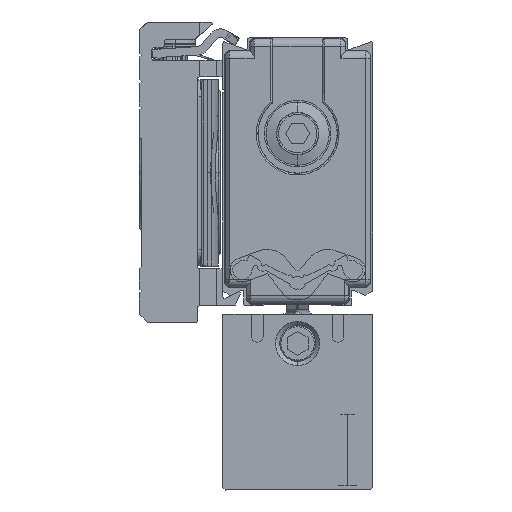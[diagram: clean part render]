
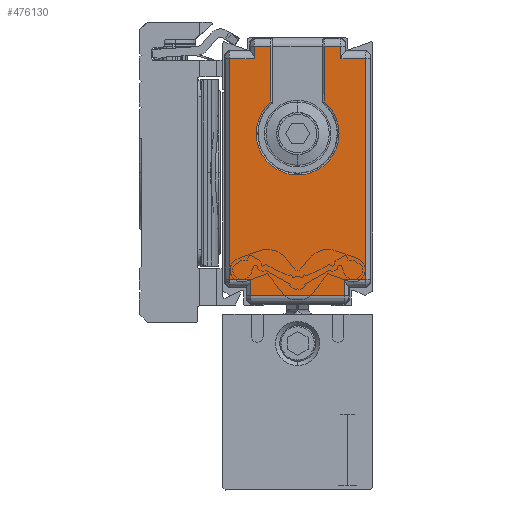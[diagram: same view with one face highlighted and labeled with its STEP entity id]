
A CAD part, left-side view. The second image highlights one B-rep face of the part: STEP entity #476130.
In plain terms, the highlighted planar face has unit normal (-1, 0, 0) as drawn and (0, 0, -1) by its records, which use the part's own axes.
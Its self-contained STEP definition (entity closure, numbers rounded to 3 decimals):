
#435290=CARTESIAN_POINT('',(24.688,30.224,-494.5));
#435300=VERTEX_POINT('',#435290);
#436350=CARTESIAN_POINT('',(31.365,35.75,-494.5));
#436360=DIRECTION('',(0.,-1.,0.));
#436370=VECTOR('',#436360,1.);
#436380=LINE('',#436350,#436370);
#436390=CARTESIAN_POINT('',(31.365,23.776,-494.5));
#436400=VERTEX_POINT('',#436390);
#436410=CARTESIAN_POINT('',(31.365,21.802,-494.5));
#436420=VERTEX_POINT('',#436410);
#436430=EDGE_CURVE('',#436400,#436420,#436380,.T.);
#443250=CARTESIAN_POINT('',(3.435,32.648,-494.5));
#443260=VERTEX_POINT('',#443250);
#443460=CARTESIAN_POINT('',(1.435,32.648,-494.5));
#443470=VERTEX_POINT('',#443460);
#443500=CARTESIAN_POINT('',(3.935,32.648,-494.5));
#443510=CARTESIAN_POINT('',(3.435,32.648,-494.5));
#443520=CARTESIAN_POINT('',(2.935,32.648,-494.5));
#443530=CARTESIAN_POINT('',(2.102,32.648,-494.5));
#443540=CARTESIAN_POINT('',(1.768,32.648,-494.5));
#443550=CARTESIAN_POINT('',(1.435,32.648,-494.5));
#443560=B_SPLINE_CURVE_WITH_KNOTS('',3,(#443500,#443510,#443520,#443530,
#443540,#443550),.UNSPECIFIED.,.F.,.F.,(4,2,4),(37.084,
38.584,39.584),.UNSPECIFIED.);
#443570=EDGE_CURVE('',#443260,#443470,#443560,.T.);
#444910=CARTESIAN_POINT('',(24.688,23.776,-494.5));
#444920=VERTEX_POINT('',#444910);
#446710=CARTESIAN_POINT('',(29.865,35.75,-494.5));
#446720=DIRECTION('',(0.,1.,0.));
#446730=VECTOR('',#446720,1.);
#446740=LINE('',#446710,#446730);
#446750=CARTESIAN_POINT('',(29.865,32.198,-494.5));
#446760=VERTEX_POINT('',#446750);
#446770=CARTESIAN_POINT('',(29.865,35.198,-494.5));
#446780=VERTEX_POINT('',#446770);
#446790=EDGE_CURVE('',#446760,#446780,#446740,.T.);
#448640=CARTESIAN_POINT('',(3.435,35.75,-494.5));
#448650=DIRECTION('',(0.,1.,0.));
#448660=VECTOR('',#448650,1.);
#448670=LINE('',#448640,#448660);
#448680=CARTESIAN_POINT('',(3.435,35.198,-494.5));
#448690=VERTEX_POINT('',#448680);
#448700=EDGE_CURVE('',#443260,#448690,#448670,.T.);
#449130=CARTESIAN_POINT('',(31.365,32.198,-494.5));
#449140=VERTEX_POINT('',#449130);
#449170=CARTESIAN_POINT('',(31.365,30.224,-494.5));
#449180=VERTEX_POINT('',#449170);
#449190=EDGE_CURVE('',#449140,#449180,#436380,.T.);
#449900=CARTESIAN_POINT('',(3.435,18.802,-494.5));
#449910=VERTEX_POINT('',#449900);
#450220=CARTESIAN_POINT('',(3.435,35.75,-494.5));
#450230=DIRECTION('',(0.,-1.,0.));
#450240=VECTOR('',#450230,1.);
#450250=LINE('',#450220,#450240);
#450260=CARTESIAN_POINT('',(3.435,21.352,-494.5));
#450270=VERTEX_POINT('',#450260);
#450280=EDGE_CURVE('',#450270,#449910,#450250,.T.);
#451130=CARTESIAN_POINT('',(1.435,21.352,-494.5));
#451140=VERTEX_POINT('',#451130);
#452610=CARTESIAN_POINT('',(3.935,21.352,-494.5));
#452620=CARTESIAN_POINT('',(3.435,21.352,-494.5));
#452630=CARTESIAN_POINT('',(2.935,21.352,-494.5));
#452640=CARTESIAN_POINT('',(2.102,21.352,-494.5));
#452650=CARTESIAN_POINT('',(1.768,21.352,-494.5));
#452660=CARTESIAN_POINT('',(1.435,21.352,-494.5));
#452670=B_SPLINE_CURVE_WITH_KNOTS('',3,(#452610,#452620,#452630,#452640,
#452650,#452660),.UNSPECIFIED.,.F.,.F.,(4,2,4),(37.084,
38.584,39.584),.UNSPECIFIED.);
#452680=EDGE_CURVE('',#450270,#451140,#452670,.T.);
#453860=CARTESIAN_POINT('',(1.435,35.75,-494.5));
#453870=DIRECTION('',(0.,1.,0.));
#453880=VECTOR('',#453870,1.);
#453890=LINE('',#453860,#453880);
#453900=EDGE_CURVE('',#451140,#443470,#453890,.T.);
#457460=CARTESIAN_POINT('',(0.15,30.224,-494.5));
#457470=DIRECTION('',(1.,0.,0.));
#457480=VECTOR('',#457470,1.);
#457490=LINE('',#457460,#457480);
#457500=EDGE_CURVE('',#435300,#449180,#457490,.T.);
#461240=CARTESIAN_POINT('',(29.865,21.802,-494.5));
#461250=VERTEX_POINT('',#461240);
#461300=CARTESIAN_POINT('',(29.365,21.802,-494.5));
#461310=CARTESIAN_POINT('',(29.782,21.802,-494.5));
#461320=CARTESIAN_POINT('',(30.198,21.802,-494.5));
#461330=CARTESIAN_POINT('',(30.865,21.802,-494.5));
#461340=CARTESIAN_POINT('',(31.115,21.802,-494.5));
#461350=CARTESIAN_POINT('',(31.365,21.802,-494.5));
#461360=B_SPLINE_CURVE_WITH_KNOTS('',3,(#461300,#461310,#461320,#461330,
#461340,#461350),.UNSPECIFIED.,.F.,.F.,(4,2,4),(37.587,
38.837,39.587),.UNSPECIFIED.);
#461370=EDGE_CURVE('',#461250,#436420,#461360,.T.);
#461700=CARTESIAN_POINT('',(29.365,32.198,-494.5));
#461710=CARTESIAN_POINT('',(29.782,32.198,-494.5));
#461720=CARTESIAN_POINT('',(30.198,32.198,-494.5));
#461730=CARTESIAN_POINT('',(30.865,32.198,-494.5));
#461740=CARTESIAN_POINT('',(31.115,32.198,-494.5));
#461750=CARTESIAN_POINT('',(31.365,32.198,-494.5));
#461760=B_SPLINE_CURVE_WITH_KNOTS('',3,(#461700,#461710,#461720,#461730,
#461740,#461750),.UNSPECIFIED.,.F.,.F.,(4,2,4),(37.587,
38.837,39.587),.UNSPECIFIED.);
#461770=EDGE_CURVE('',#446760,#449140,#461760,.T.);
#462910=CARTESIAN_POINT('',(29.865,18.802,-494.5));
#462920=VERTEX_POINT('',#462910);
#462950=CARTESIAN_POINT('',(3.435,18.802,-494.5));
#462960=CARTESIAN_POINT('',(7.84,18.802,-494.5));
#462970=CARTESIAN_POINT('',(12.245,18.802,-494.5));
#462980=CARTESIAN_POINT('',(21.055,18.802,-494.5));
#462990=CARTESIAN_POINT('',(25.46,18.802,-494.5));
#463000=CARTESIAN_POINT('',(29.865,18.802,-494.5));
#463010=B_SPLINE_CURVE_WITH_KNOTS('',3,(#462950,#462960,#462970,#462980,
#462990,#463000),.UNSPECIFIED.,.F.,.F.,(4,2,4),(24.334,
37.549,50.764),.UNSPECIFIED.);
#463020=EDGE_CURVE('',#449910,#462920,#463010,.T.);
#469350=CARTESIAN_POINT('',(29.865,35.75,-494.5));
#469360=DIRECTION('',(0.,-1.,0.));
#469370=VECTOR('',#469360,1.);
#469380=LINE('',#469350,#469370);
#469390=EDGE_CURVE('',#461250,#462920,#469380,.T.);
#470580=CARTESIAN_POINT('',(3.435,35.198,-494.5));
#470590=CARTESIAN_POINT('',(7.84,35.198,-494.5));
#470600=CARTESIAN_POINT('',(12.245,35.198,-494.5));
#470610=CARTESIAN_POINT('',(21.055,35.198,-494.5));
#470620=CARTESIAN_POINT('',(25.46,35.198,-494.5));
#470630=CARTESIAN_POINT('',(29.865,35.198,-494.5));
#470640=B_SPLINE_CURVE_WITH_KNOTS('',3,(#470580,#470590,#470600,#470610,
#470620,#470630),.UNSPECIFIED.,.F.,.F.,(4,2,4),(24.308,
37.523,50.738),.UNSPECIFIED.);
#470650=EDGE_CURVE('',#448690,#446780,#470640,.T.);
#475620=CARTESIAN_POINT('',(20.9,27.,-494.5));
#475630=DIRECTION('',(0.,0.,-1.));
#475640=DIRECTION('',(0.,1.,0.));
#475650=AXIS2_PLACEMENT_3D('',#475620,#475630,#475640);
#475660=CIRCLE('',#475650,4.974);
#475670=EDGE_CURVE('',#444920,#435300,#475660,.T.);
#475850=CARTESIAN_POINT('',(16.65,27.,-494.5));
#475860=DIRECTION('',(0.,0.,1.));
#475870=DIRECTION('',(0.,1.,0.));
#475880=AXIS2_PLACEMENT_3D('',#475850,#475860,#475870);
#475890=PLANE('',#475880);
#475900=ORIENTED_EDGE('',*,*,#475670,.F.);
#475910=ORIENTED_EDGE('',*,*,#457500,.F.);
#475920=ORIENTED_EDGE('',*,*,#449190,.T.);
#475930=ORIENTED_EDGE('',*,*,#461770,.T.);
#475940=ORIENTED_EDGE('',*,*,#446790,.F.);
#475950=ORIENTED_EDGE('',*,*,#470650,.T.);
#475960=ORIENTED_EDGE('',*,*,#448700,.T.);
#475970=ORIENTED_EDGE('',*,*,#443570,.F.);
#475980=ORIENTED_EDGE('',*,*,#453900,.T.);
#475990=ORIENTED_EDGE('',*,*,#452680,.T.);
#476000=ORIENTED_EDGE('',*,*,#450280,.F.);
#476010=ORIENTED_EDGE('',*,*,#463020,.F.);
#476020=ORIENTED_EDGE('',*,*,#469390,.T.);
#476030=ORIENTED_EDGE('',*,*,#461370,.F.);
#476040=ORIENTED_EDGE('',*,*,#436430,.T.);
#476050=CARTESIAN_POINT('',(0.15,23.776,-494.5));
#476060=DIRECTION('',(-1.,0.,0.));
#476070=VECTOR('',#476060,1.);
#476080=LINE('',#476050,#476070);
#476090=EDGE_CURVE('',#436400,#444920,#476080,.T.);
#476100=ORIENTED_EDGE('',*,*,#476090,.F.);
#476110=EDGE_LOOP('',(#476100,#476040,#476030,#476020,#476010,#476000,
#475990,#475980,#475970,#475960,#475950,#475940,#475930,#475920,#475910,
#475900));
#476120=FACE_OUTER_BOUND('',#476110,.T.);
#476130=ADVANCED_FACE('',(#476120),#475890,.F.);
